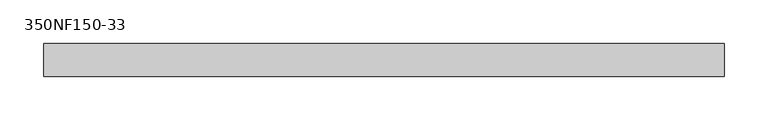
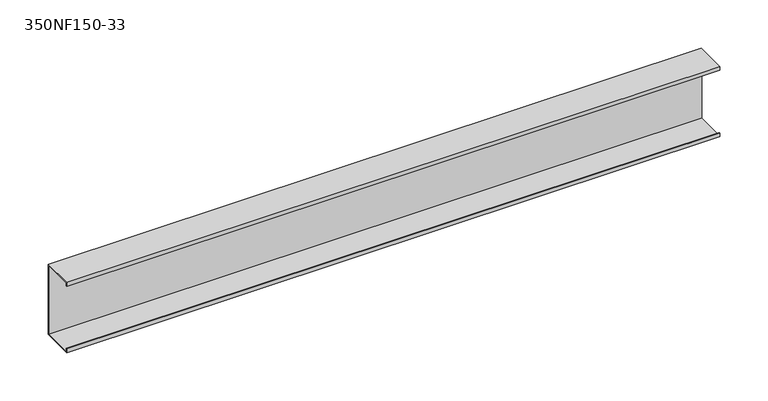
"""IFC4 building model written with IfcOpenShell, lengths in millimetres: beam geometry, BIMSF-SSMA-S : 350NF150-33."""

from ifc_helpers import new_model, si_unit, frame, origin, place, context, project, spatial, polyline, outline, extrude, source, transform, mapped, element, save


def beam_350nf150_33_e3974812(model_context):
    return source(origin(), model_context, "Body", "SweptSolid", [
        extrude(outline(polyline([(19.05, 44.45), (19.05, -44.45), (-19.05, -44.45), (-19.05, -39.6748), (-18.1676842, -39.6748), (-18.1676842, -43.5676842), (18.1676842, -43.5676842), (18.1676842, 43.5676842), (-18.1676842, 43.5676842), (-18.1676842, 39.6748), (-19.05, 39.6748), (-19.05, 44.45), (19.05, 44.45)])), frame((-390.4755761, 0.0, 0.0), z_axis=(1.0, 0.0, 0.0), x_axis=(0.0, 1.0, 0.0)), (0.0, 0.0, 1.0), 780.9511521),
    ])


if __name__ == "__main__":
    model = new_model("IFC4")
    model_context = context("Model", 3, world=origin())
    ifc_project = project(units=[si_unit("LENGTHUNIT", "METRE", prefix="MILLI")], contexts=[model_context])
    site = spatial("IfcSite", under=ifc_project)
    building = spatial("IfcBuilding", under=site)
    placement = place(None, origin())
    beam_350nf150_33_shape = beam_350nf150_33_e3974812(model_context)
    element("IfcBeam", 1, ObjectType="BIMSF-SSMA-S : 350NF150-33", at=placement, inside=building, context=model_context, shape_type="MappedRepresentation", body=[
        mapped(beam_350nf150_33_shape, transform((0.0, 0.0, 0.0), x_axis=(1.0, 0.0, 0.0), y_axis=(0.0, 1.0, 0.0), z_axis=(0.0, 0.0, 1.0))),
    ])
    save(model, "model.ifc")
